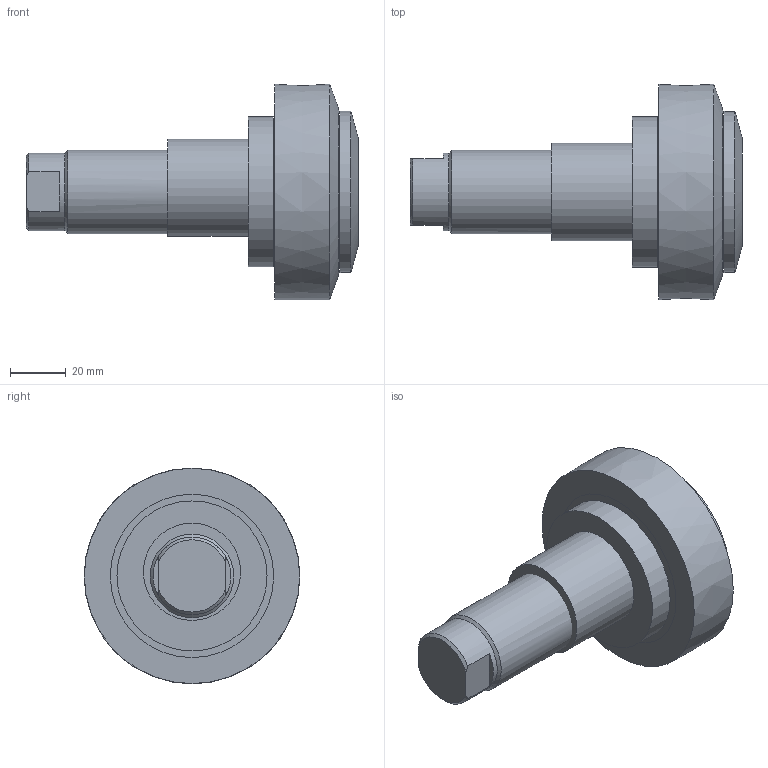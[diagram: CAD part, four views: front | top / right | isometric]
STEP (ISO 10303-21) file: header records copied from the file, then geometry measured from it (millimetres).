
FILE_DESCRIPTION(/* description */ ('-','CAx-IF Rec.Pracs.---Representation and Presentation of Product Manufacturing Information (PMI)---4.0---2014-10-13'),/* implementation_level */ '2;1');
FILE_NAME(/* name */ 'c:\temp\17d1262f-ac36-4e4b-bd02-768109cf53c7\8f8b8d0f-8969-4184-abe6-3f973d7ae751.stp',/* time_stamp */ '2020-05-28T13:31:56+02:00',/* author */ ('-'),/* organization */ ('NTI CADcenter A/S'),/* preprocessor_version */ 'ST-DEVELOPER v18',/* originating_system */ 'Autodesk Inventor 2020',/* authorisation */ '-');
FILE_SCHEMA (('AP242_MANAGED_MODEL_BASED_3D_ENGINEERING_MIM_LF { 1 0 10303 442 1 1 4 }'));
Length unit declared in the file: millimetre
Products named in the file (1): TR 080.1360E_Kontur
Bounding box: 119.5 x 77.6 x 77.65 mm (x, y, z)
Volume: 332276.8 mm3; surface area: 68475.4 mm2
Topology: 8 solids, 8 shells, 53 faces, 110 edges, 80 vertices
Faces by surface type: plane 29, cylinder 16, cone 7, bspline 1
Full cylindrical faces by diameter (mm): 28 x1, 30 x1, 32.9 x1, 35 x1, 46 x1, 52 x2, 52.5 x1, 54 x1, 55 x1, 56.5 x1, 58 x1, 58.8 x2
Entity records: 1665 total; most frequent: CARTESIAN_POINT 342, DIRECTION 279, ORIENTED_EDGE 220, AXIS2_PLACEMENT_3D 122, EDGE_CURVE 110, VERTEX_POINT 80, CIRCLE 69, STYLED_ITEM 61
